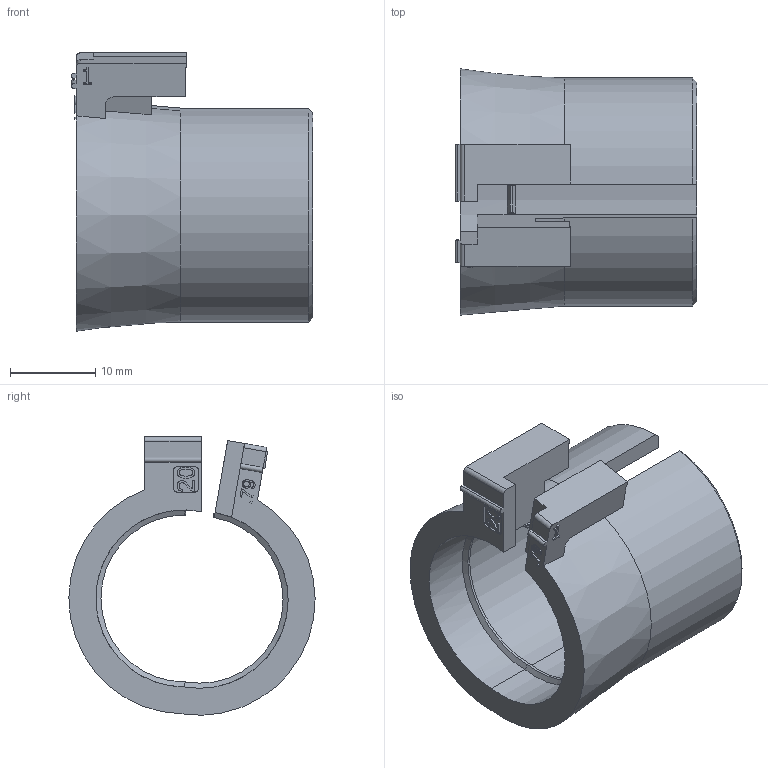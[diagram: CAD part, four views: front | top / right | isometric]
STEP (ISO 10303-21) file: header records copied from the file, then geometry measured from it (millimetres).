
FILE_DESCRIPTION(/* description */ (''),/* implementation_level */ '2;1');
FILE_NAME(/* name */ 'C:\SapWorkDir\Inventor\MP1\ConvertTempPath\87_12_121364_00_A_220530_KDT-X 20.stp',/* time_stamp */ '2022-05-31T13:44:40+02:00',/* author */ ('BAUER'),/* organization */ (''),/* preprocessor_version */ 'ST-DEVELOPER v16.13',/* originating_system */ 'Autodesk Inventor 2018',/* authorisation */ '');
FILE_SCHEMA (('AUTOMOTIVE_DESIGN { 1 0 10303 214 3 1 1 }'));
Length unit declared in the file: millimetre
Products named in the file (1): 121364
Bounding box: 28.4 x 28.95 x 32.73 mm (x, y, z)
Volume: 5332.9 mm3; surface area: 5126.6 mm2
Topology: 1 solids, 1 shells, 147 faces, 390 edges, 254 vertices
Faces by surface type: plane 82, bspline 33, cylinder 24, cone 8
Entity records: 4861 total; most frequent: CARTESIAN_POINT 1244, ORIENTED_EDGE 780, DIRECTION 605, EDGE_CURVE 390, LINE 259, VECTOR 259, VERTEX_POINT 254, AXIS2_PLACEMENT_3D 173
